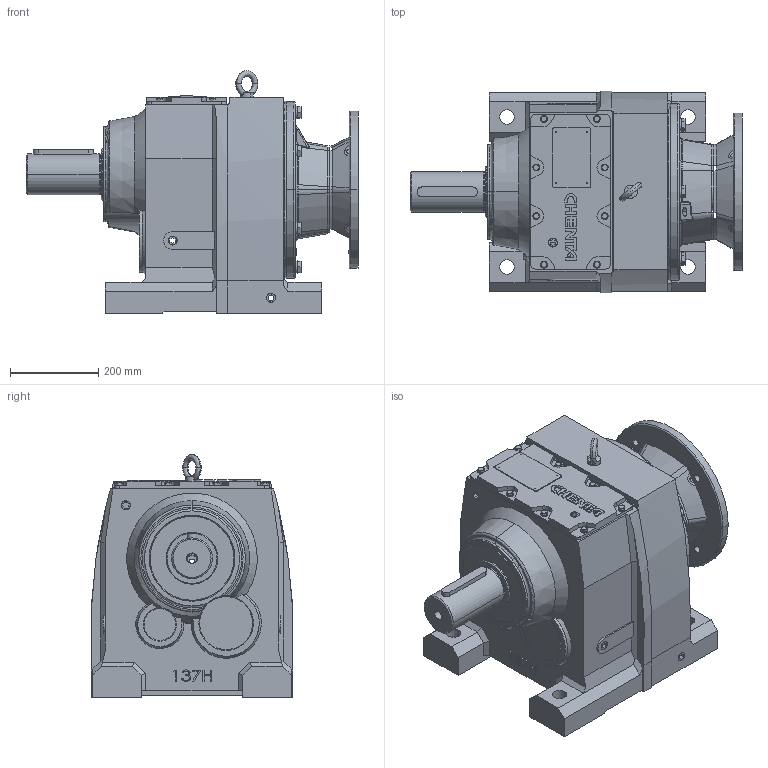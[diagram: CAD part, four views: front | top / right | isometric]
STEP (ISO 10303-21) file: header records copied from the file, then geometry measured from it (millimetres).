
FILE_DESCRIPTION (( 'STEP AP203' ), '1' );
FILE_NAME ('WINL137-324-6TC.STEP', '2013-09-26T10:17:45', ( 'User' ), ( 'Chenta' ), 'SwSTEP 2.0', 'SolidWorks 2011', '' );
FILE_SCHEMA (( 'CONFIG_CONTROL_DESIGN' ));
Length unit declared in the file: millimetre
Products named in the file (1): WINL137-324-6TC
Bounding box: 752 x 457.17 x 549.8 mm (x, y, z)
Surface area: 1838832.8 mm2 (no closed solid volume)
Topology: 0 solids, 55 shells, 954 faces, 2859 edges, 1956 vertices
Faces by surface type: plane 531, cylinder 190, cone 125, bspline 72, torus 33, sphere 3
Entity records: 38153 total; most frequent: CARTESIAN_POINT 13231, ORIENTED_EDGE 4993, DIRECTION 4868, EDGE_CURVE 2859, VERTEX_POINT 1956, VECTOR 1674, LINE 1674, AXIS2_PLACEMENT_3D 1597
